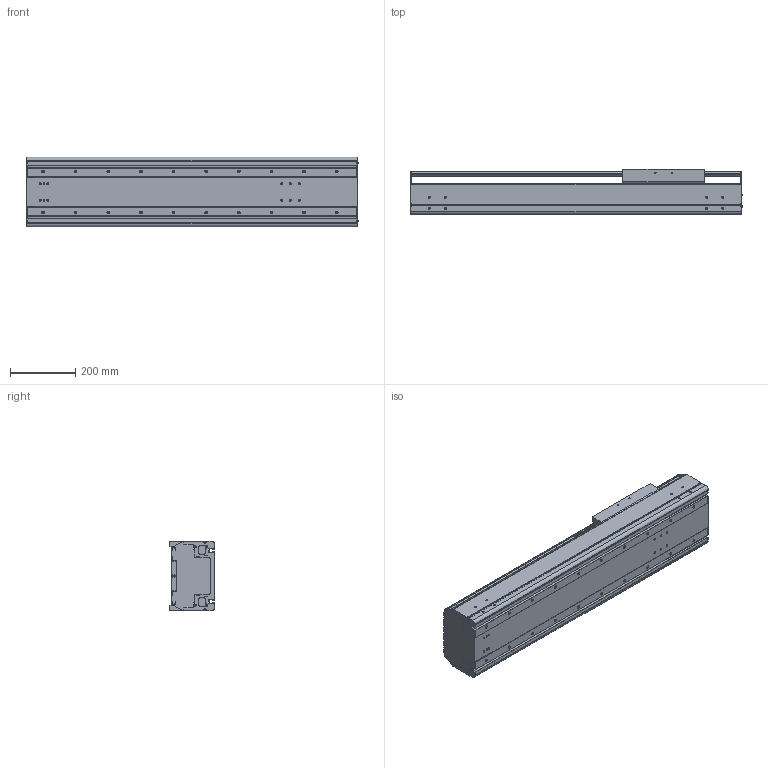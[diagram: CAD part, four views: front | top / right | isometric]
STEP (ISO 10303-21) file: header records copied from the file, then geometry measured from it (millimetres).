
FILE_DESCRIPTION((''),'2;1');
FILE_NAME('BE60G-ST-M_N-60_IGS_PRT','2017-06-18T',(' '),(''),'PRO/ENGINEER BY PARAMETRIC TECHNOLOGY CORPORATION, 2015030','PRO/ENGINEER BY PARAMETRIC TECHNOLOGY CORPORATION, 2015030','');
FILE_SCHEMA(('CONFIG_CONTROL_DESIGN'));
Length unit declared in the file: millimetre
Products named in the file (1): BE60G-ST-M_N-60_IGS_PRT
Bounding box: 1017.4 x 140 x 214 mm (x, y, z)
Volume: 8458936.1 mm3; surface area: 2250729.3 mm2
Topology: 2 solids, 120 shells, 1442 faces, 3996 edges, 2619 vertices
Faces by surface type: cylinder 712, plane 590, cone 92, sphere 24, torus 24
Entity records: 47645 total; most frequent: CARTESIAN_POINT 10349, DIRECTION 7912, ORIENTED_EDGE 7348, EDGE_CURVE 3906, AXIS2_PLACEMENT_3D 2927, VERTEX_POINT 2618, VECTOR 2058, LINE 2058
